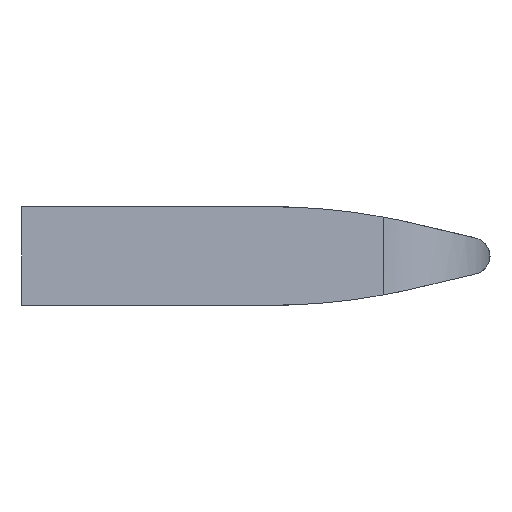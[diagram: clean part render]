
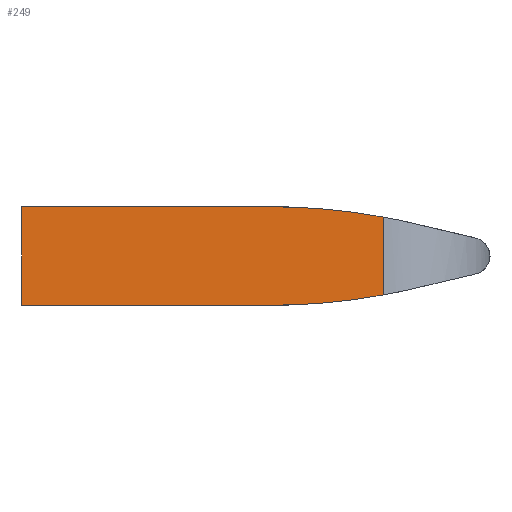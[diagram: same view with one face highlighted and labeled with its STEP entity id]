
A CAD part, left-side view. The second image highlights one B-rep face of the part: STEP entity #249.
In plain terms, the highlighted planar face has unit normal (-0.996, -0.087, 0).
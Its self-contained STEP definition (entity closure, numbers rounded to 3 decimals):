
#201 = EDGE_CURVE( '', #317, #263, #503, .T. );
#215 = VERTEX_POINT( '', #517 );
#249 = ADVANCED_FACE( '', ( #553 ), #554, .T. );
#261 = VERTEX_POINT( '', #567 );
#263 = VERTEX_POINT( '', #569 );
#271 = VERTEX_POINT( '', #579 );
#305 = EDGE_CURVE( '', #339, #215, #614, .T. );
#311 = EDGE_CURVE( '', #261, #271, #622, .T. );
#317 = VERTEX_POINT( '', #628 );
#339 = VERTEX_POINT( '', #652 );
#341 = EDGE_CURVE( '', #215, #263, #654, .T. );
#387 = EDGE_CURVE( '', #261, #339, #702, .T. );
#411 = EDGE_CURVE( '', #317, #271, #731, .T. );
#503 = LINE( '', #870, #871 );
#517 = CARTESIAN_POINT( '', ( -19.231, -20.222, -4. ) );
#553 = FACE_OUTER_BOUND( '', #950, .T. );
#554 = PLANE( '', #951 );
#567 = CARTESIAN_POINT( '', ( -21., 0., 4. ) );
#569 = CARTESIAN_POINT( '', ( -18.434, -29.328, -3.164 ) );
#579 = CARTESIAN_POINT( '', ( -19.231, -20.222, 4. ) );
#614 = LINE( '', #1037, #1038 );
#622 = LINE( '', #1047, #1048 );
#628 = CARTESIAN_POINT( '', ( -18.434, -29.328, 3.164 ) );
#652 = CARTESIAN_POINT( '', ( -21., 0., -4. ) );
#654 = ELLIPSE( '', #1094, 50.191, 50. );
#702 = LINE( '', #1179, #1180 );
#731 = ELLIPSE( '', #1214, 50.191, 50. );
#870 = CARTESIAN_POINT( '', ( -18.434, -29.328, 4. ) );
#871 = VECTOR( '', #1336, 1. );
#950 = EDGE_LOOP( '', ( #1376, #1377, #1378, #1379, #1380, #1381 ) );
#951 = AXIS2_PLACEMENT_3D( '', #1382, #1383, #1384 );
#1037 = CARTESIAN_POINT( '', ( -21., 0., -4. ) );
#1038 = VECTOR( '', #1428, 1. );
#1047 = CARTESIAN_POINT( '', ( -21., 0., 4. ) );
#1048 = VECTOR( '', #1450, 1. );
#1094 = AXIS2_PLACEMENT_3D( '', #1476, #1477, #1478 );
#1179 = CARTESIAN_POINT( '', ( -21., 0., 4. ) );
#1180 = VECTOR( '', #1517, 1. );
#1214 = AXIS2_PLACEMENT_3D( '', #1575, #1576, #1577 );
#1336 = DIRECTION( '', ( 0., 0., -1. ) );
#1376 = ORIENTED_EDGE( '', *, *, #341, .T. );
#1377 = ORIENTED_EDGE( '', *, *, #201, .F. );
#1378 = ORIENTED_EDGE( '', *, *, #411, .T. );
#1379 = ORIENTED_EDGE( '', *, *, #311, .F. );
#1380 = ORIENTED_EDGE( '', *, *, #387, .T. );
#1381 = ORIENTED_EDGE( '', *, *, #305, .T. );
#1382 = CARTESIAN_POINT( '', ( -21., 0., 4. ) );
#1383 = DIRECTION( '', ( -0.996, -0.087, 0. ) );
#1384 = DIRECTION( '', ( -0.087, 0.996, 0. ) );
#1428 = DIRECTION( '', ( 0.087, -0.996, 0. ) );
#1450 = DIRECTION( '', ( 0.087, -0.996, 0. ) );
#1476 = CARTESIAN_POINT( '', ( -19.231, -20.222, 46. ) );
#1477 = DIRECTION( '', ( -0.996, -0.087, 0. ) );
#1478 = DIRECTION( '', ( 0.087, -0.996, 0. ) );
#1517 = DIRECTION( '', ( 0., 0., -1. ) );
#1575 = CARTESIAN_POINT( '', ( -19.231, -20.222, -46. ) );
#1576 = DIRECTION( '', ( -0.996, -0.087, 0. ) );
#1577 = DIRECTION( '', ( 0.087, -0.996, 0. ) );
